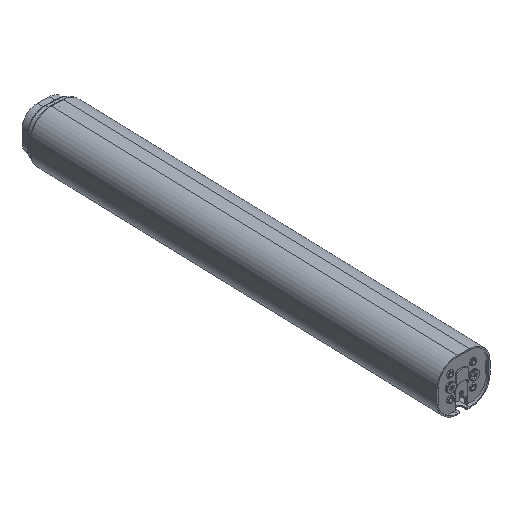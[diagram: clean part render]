
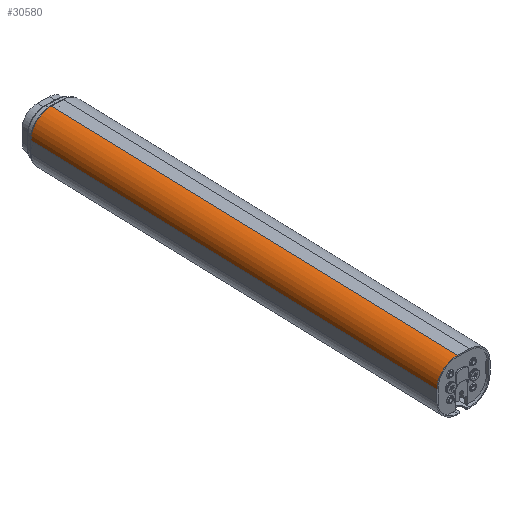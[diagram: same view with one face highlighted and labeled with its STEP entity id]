
A CAD part, isometric view. The second image highlights one B-rep face of the part: STEP entity #30580.
In plain terms, the highlighted cylindrical face has radius 27 mm (diameter 54 mm), a partial arc.
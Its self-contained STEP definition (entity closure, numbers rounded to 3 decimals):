
#22 = LINE ( 'NONE', #20324, #3149 ) ;
#150 = AXIS2_PLACEMENT_3D ( 'NONE', #418, #48021, #24389 ) ;
#418 = CARTESIAN_POINT ( 'NONE',  ( -8., 570., 8. ) ) ;
#2644 = CARTESIAN_POINT ( 'NONE',  ( -35., 0., 8. ) ) ;
#3149 = VECTOR ( 'NONE', #24404, 1000. ) ;
#7845 = FACE_OUTER_BOUND ( 'NONE', #42308, .T. ) ;
#10444 = VERTEX_POINT ( 'NONE', #34033 ) ;
#11310 = VERTEX_POINT ( 'NONE', #2644 ) ;
#12523 = CARTESIAN_POINT ( 'NONE',  ( -8., 0., 35. ) ) ;
#12824 = DIRECTION ( 'NONE',  ( 0., -1., 0. ) ) ;
#13138 = VERTEX_POINT ( 'NONE', #49837 ) ;
#14560 = DIRECTION ( 'NONE',  ( 0., -1., 0. ) ) ;
#16621 = CARTESIAN_POINT ( 'NONE',  ( -8., 570., 8. ) ) ;
#19906 = DIRECTION ( 'NONE',  ( 0., 0., 1. ) ) ;
#20324 = CARTESIAN_POINT ( 'NONE',  ( -35., 570., 8. ) ) ;
#20699 = CIRCLE ( 'NONE', #35209, 27. ) ;
#22616 = CARTESIAN_POINT ( 'NONE',  ( -8., 570., 35. ) ) ;
#24180 = DIRECTION ( 'NONE',  ( 0., 0., -1. ) ) ;
#24389 = DIRECTION ( 'NONE',  ( 0., 0., 1. ) ) ;
#24404 = DIRECTION ( 'NONE',  ( 0., -1., 0. ) ) ;
#26682 = ORIENTED_EDGE ( 'NONE', *, *, #50822, .F. ) ;
#28236 = LINE ( 'NONE', #22616, #41320 ) ;
#29991 = EDGE_CURVE ( 'NONE', #13138, #10444, #48566, .T. ) ;
#30580 = ADVANCED_FACE ( 'NONE', ( #7845 ), #44107, .T. ) ;
#31213 = ORIENTED_EDGE ( 'NONE', *, *, #29991, .F. ) ;
#31462 = DIRECTION ( 'NONE',  ( 0., 1., 0. ) ) ;
#34033 = CARTESIAN_POINT ( 'NONE',  ( -8., 570., 35. ) ) ;
#35209 = AXIS2_PLACEMENT_3D ( 'NONE', #39917, #31462, #19906 ) ;
#35474 = ORIENTED_EDGE ( 'NONE', *, *, #40091, .T. ) ;
#37751 = AXIS2_PLACEMENT_3D ( 'NONE', #16621, #12824, #24180 ) ;
#38715 = EDGE_CURVE ( 'NONE', #11310, #46592, #20699, .T. ) ;
#39917 = CARTESIAN_POINT ( 'NONE',  ( -8., 0., 8. ) ) ;
#40091 = EDGE_CURVE ( 'NONE', #13138, #11310, #22, .T. ) ;
#40488 = ORIENTED_EDGE ( 'NONE', *, *, #38715, .T. ) ;
#41320 = VECTOR ( 'NONE', #14560, 1000. ) ;
#42308 = EDGE_LOOP ( 'NONE', ( #40488, #26682, #31213, #35474 ) ) ;
#44107 = CYLINDRICAL_SURFACE ( 'NONE', #37751, 27. ) ;
#46592 = VERTEX_POINT ( 'NONE', #12523 ) ;
#48021 = DIRECTION ( 'NONE',  ( 0., 1., 0. ) ) ;
#48566 = CIRCLE ( 'NONE', #150, 27. ) ;
#49837 = CARTESIAN_POINT ( 'NONE',  ( -35., 570., 8. ) ) ;
#50822 = EDGE_CURVE ( 'NONE', #10444, #46592, #28236, .T. ) ;
